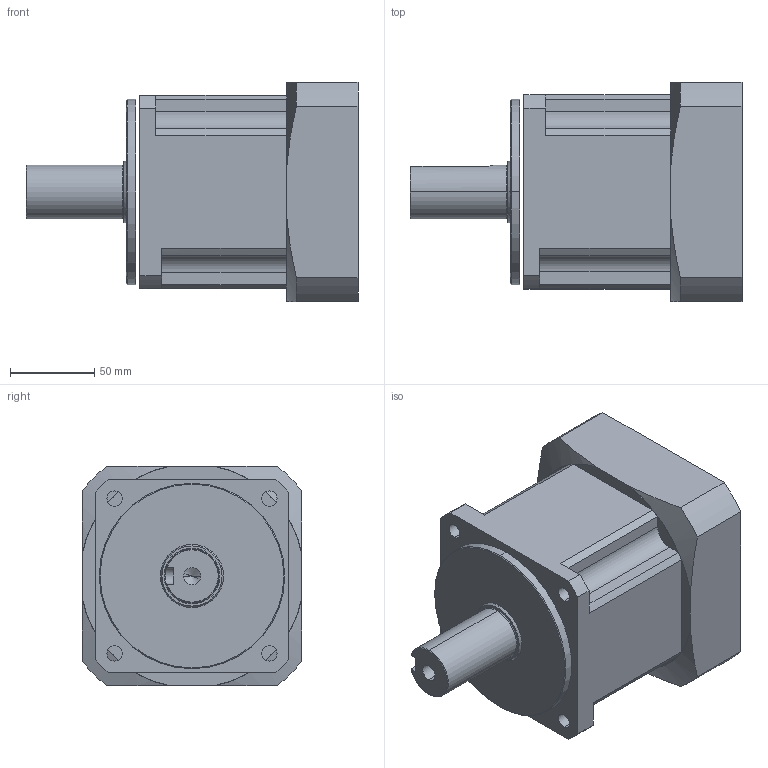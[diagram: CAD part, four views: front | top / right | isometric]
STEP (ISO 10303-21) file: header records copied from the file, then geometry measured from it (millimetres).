
FILE_DESCRIPTION (( 'STEP AP203' ), '1' );
FILE_NAME ('AB-120-L1-22-110-145-M8.STEP', '2025-05-10T01:51:29', ( 'Microsoft' ), ( 'Microsoft' ), 'SwSTEP 2.0', 'SolidWorks 2016', '' );
FILE_SCHEMA (( 'CONFIG_CONTROL_DESIGN' ));
Length unit declared in the file: millimetre
Products named in the file (1): AB-120-L1-22-110-145-M8
Bounding box: 197 x 130 x 130 mm (x, y, z)
Volume: 1668646.9 mm3; surface area: 140711.1 mm2
Topology: 2 solids, 2 shells, 111 faces, 289 edges, 183 vertices
Faces by surface type: cylinder 47, plane 41, cone 18, bspline 5
Entity records: 3572 total; most frequent: CARTESIAN_POINT 749, DIRECTION 599, ORIENTED_EDGE 558, EDGE_CURVE 279, AXIS2_PLACEMENT_3D 229, VERTEX_POINT 183, LINE 141, VECTOR 141
